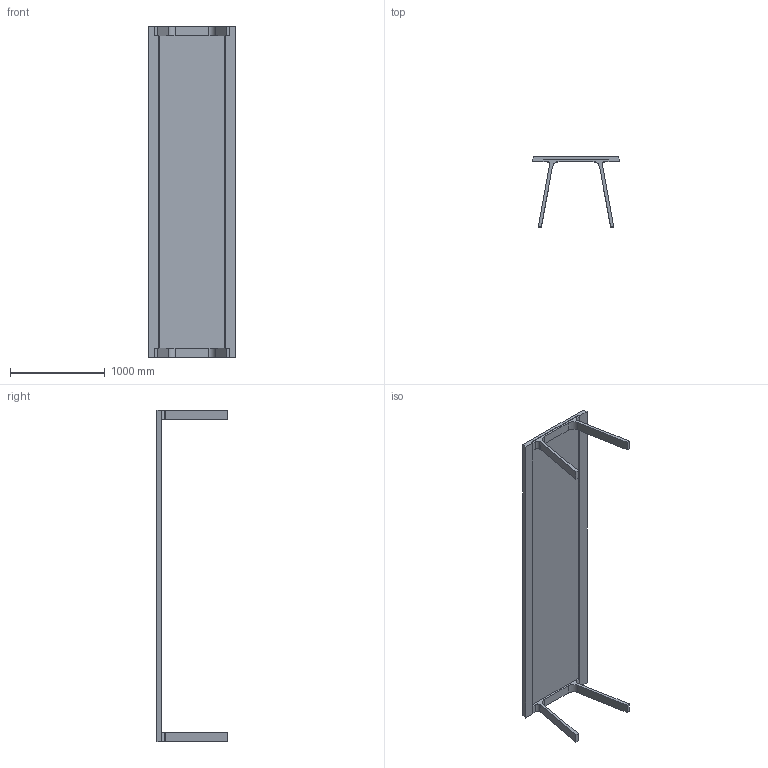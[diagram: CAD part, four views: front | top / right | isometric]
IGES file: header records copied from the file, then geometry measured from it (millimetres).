
Start section: SolidWorks IGES file using analytic representation for surfaces
Global section: file name: G:\Product Info\Doble\3D\igs\Doble 350x90x74-poten buiten.IGS; native system: SolidWorks 2008; preprocessor: SolidWorks 2008; author: remko; date: 080826.135331; units: millimetre
Bounding box: 917.63 x 740 x 3500 mm (x, y, z)
Surface area: 7799796.3 mm2 (no closed solid volume)
Topology: 0 solids, 0 shells, 46 faces, 356 edges, 356 vertices
Faces by surface type: bspline 36, revolution 10
